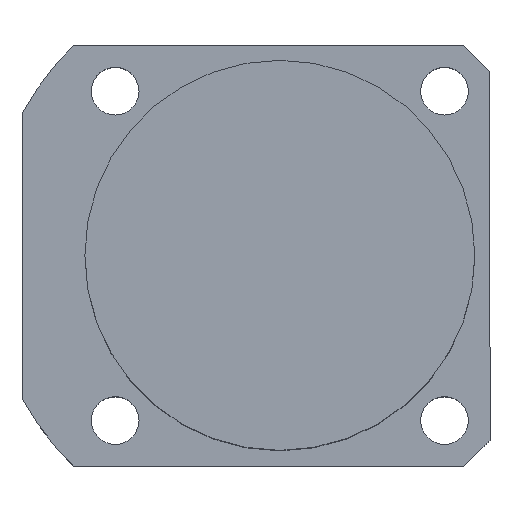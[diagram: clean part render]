
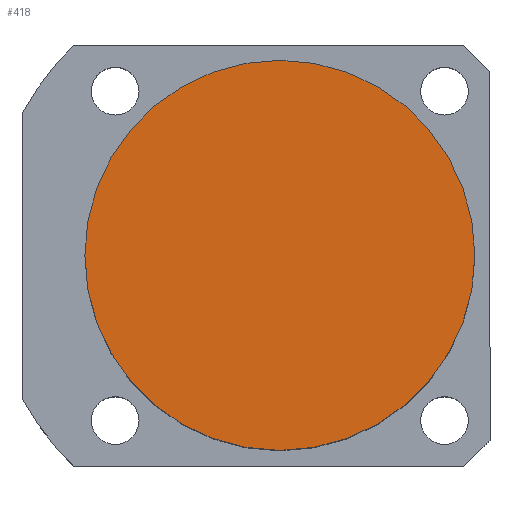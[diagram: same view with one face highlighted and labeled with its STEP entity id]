
A CAD part, top view. The second image highlights one B-rep face of the part: STEP entity #418.
In plain terms, the highlighted planar face has unit normal (0, 0, 1).
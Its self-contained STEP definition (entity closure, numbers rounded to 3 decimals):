
#66 = EDGE_LOOP ( 'NONE', ( #1848, #1053 ) ) ;
#68 = DIRECTION ( 'NONE',  ( 1., 0., 0. ) ) ;
#245 = CARTESIAN_POINT ( 'NONE',  ( 0., 0., 84.5 ) ) ;
#295 = AXIS2_PLACEMENT_3D ( 'NONE', #1583, #694, #860 ) ;
#321 = AXIS2_PLACEMENT_3D ( 'NONE', #417, #1935, #68 ) ;
#402 = DIRECTION ( 'NONE',  ( 0., 0., 1. ) ) ;
#417 = CARTESIAN_POINT ( 'NONE',  ( 0., 0., 84.5 ) ) ;
#418 = ADVANCED_FACE ( 'NONE', ( #1740 ), #2103, .T. ) ;
#430 = EDGE_CURVE ( 'NONE', #868, #907, #2124, .T. ) ;
#488 = CIRCLE ( 'NONE', #295, 45. ) ;
#694 = DIRECTION ( 'NONE',  ( 0., 0., 1. ) ) ;
#721 = CARTESIAN_POINT ( 'NONE',  ( -45., 0., 84.5 ) ) ;
#860 = DIRECTION ( 'NONE',  ( 1., 0., 0. ) ) ;
#868 = VERTEX_POINT ( 'NONE', #2033 ) ;
#887 = AXIS2_PLACEMENT_3D ( 'NONE', #245, #402, #930 ) ;
#907 = VERTEX_POINT ( 'NONE', #721 ) ;
#930 = DIRECTION ( 'NONE',  ( 1., 0., 0. ) ) ;
#1053 = ORIENTED_EDGE ( 'NONE', *, *, #430, .T. ) ;
#1583 = CARTESIAN_POINT ( 'NONE',  ( 0., 0., 84.5 ) ) ;
#1740 = FACE_OUTER_BOUND ( 'NONE', #66, .T. ) ;
#1756 = EDGE_CURVE ( 'NONE', #907, #868, #488, .T. ) ;
#1848 = ORIENTED_EDGE ( 'NONE', *, *, #1756, .T. ) ;
#1935 = DIRECTION ( 'NONE',  ( 0., 0., 1. ) ) ;
#2033 = CARTESIAN_POINT ( 'NONE',  ( 45., 0., 84.5 ) ) ;
#2103 = PLANE ( 'NONE',  #321 ) ;
#2124 = CIRCLE ( 'NONE', #887, 45. ) ;
